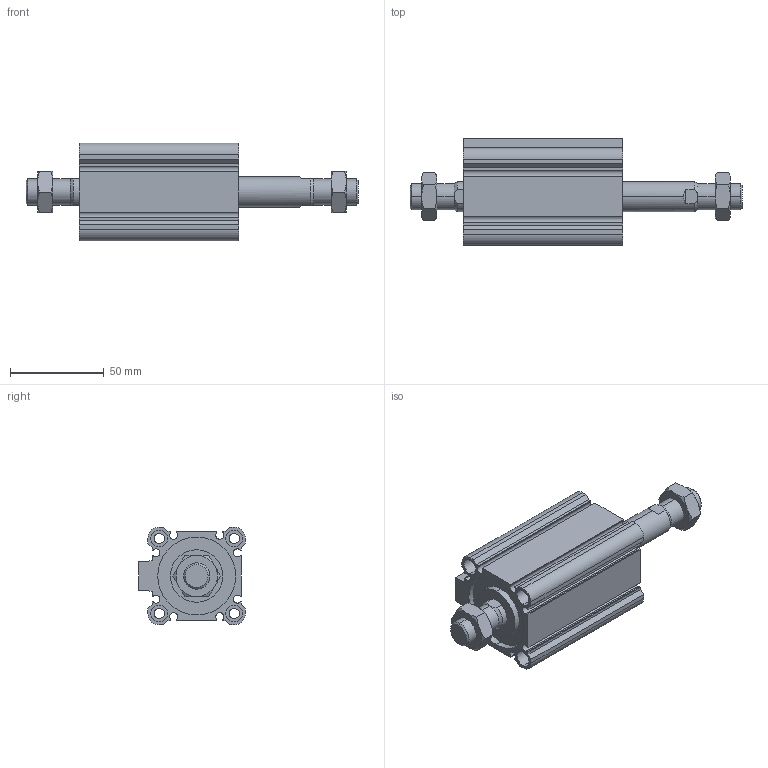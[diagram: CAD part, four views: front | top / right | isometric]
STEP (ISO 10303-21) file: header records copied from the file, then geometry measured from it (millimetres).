
FILE_DESCRIPTION (( 'STEP AP203' ), '1' );
FILE_NAME ('CCMB40-35M-P.STEP', '2020-08-10T11:39:38', ( '' ), ( '' ), 'SwSTEP 2.0', 'SolidWorks 2019', '' );
FILE_SCHEMA (( 'CONFIG_CONTROL_DESIGN' ));
Length unit declared in the file: millimetre
Products named in the file (1): CCMB40-35M-P
Bounding box: 177 x 57 x 52 mm (x, y, z)
Volume: 170079.9 mm3; surface area: 63970.3 mm2
Topology: 4 solids, 4 shells, 216 faces, 522 edges, 332 vertices
Faces by surface type: plane 94, cylinder 78, cone 44
Entity records: 7009 total; most frequent: CARTESIAN_POINT 1819, DIRECTION 1088, ORIENTED_EDGE 1044, EDGE_CURVE 522, AXIS2_PLACEMENT_3D 413, VERTEX_POINT 332, LINE 262, VECTOR 262
